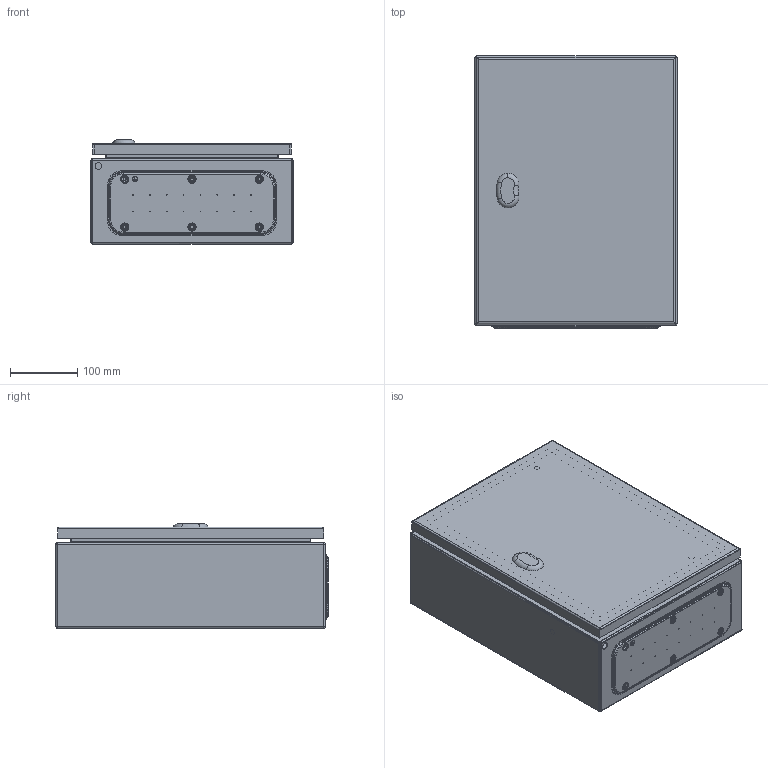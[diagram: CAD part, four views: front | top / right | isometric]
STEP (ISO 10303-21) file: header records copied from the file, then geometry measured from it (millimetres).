
FILE_DESCRIPTION (( 'STEP AP203' ), '1' );
FILE_NAME ('0300x0400x0150 dx.step', '2021-09-07T06:40:02', ( '' ), ( '' ), 'SwSTEP 2.0', 'SolidWorks 2021', '' );
FILE_SCHEMA (( 'CONFIG_CONTROL_DESIGN' ));
Length unit declared in the file: millimetre
Products named in the file (7): AR_ECOR_montaggio_porta_singola_0300x0400; 0300x0400x0150 dx; AR_ECOR_involucro_0300x0400x0150; AR_ECOR_chiusura_std_STD; AR_ECOR_Piastra_04; AR_ECOR_flangia IC_02; AR_ECOR_porta_singola_0300x0400
Assembly tree (6 placements, depth 3):
  0300x0400x0150 dx
    AR_ECOR_involucro_0300x0400x0150
    AR_ECOR_montaggio_porta_singola_0300x0400
      AR_ECOR_porta_singola_0300x0400
      AR_ECOR_chiusura_std_STD
    AR_ECOR_flangia IC_02
    AR_ECOR_Piastra_04
Bounding box: 300 x 404 x 155 mm (x, y, z)
Volume: 892685.8 mm3; surface area: 1217725.3 mm2
Topology: 5 solids, 5 shells, 589 faces, 1466 edges, 912 vertices
Faces by surface type: cylinder 287, plane 177, cone 48, torus 33, bspline 28, sphere 16
Entity records: 19251 total; most frequent: CARTESIAN_POINT 4168, DIRECTION 3161, ORIENTED_EDGE 2892, EDGE_CURVE 1446, AXIS2_PLACEMENT_3D 1240, VERTEX_POINT 912, EDGE_LOOP 754, LINE 681
